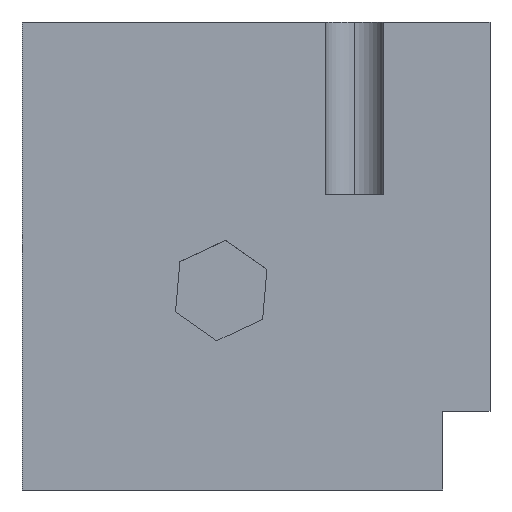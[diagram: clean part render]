
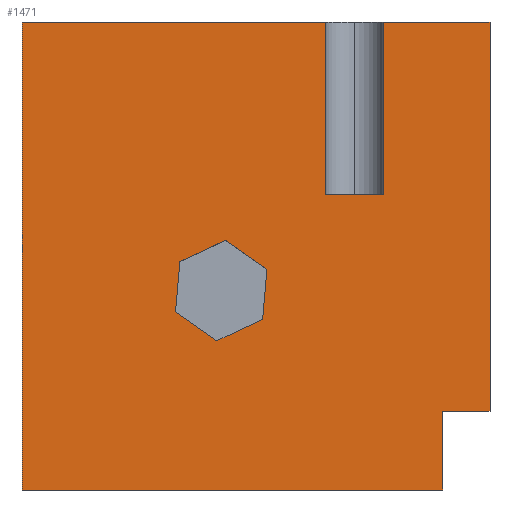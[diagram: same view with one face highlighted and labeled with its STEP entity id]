
A CAD part, left-side view. The second image highlights one B-rep face of the part: STEP entity #1471.
In plain terms, the highlighted planar face has unit normal (-1, 0, 0).
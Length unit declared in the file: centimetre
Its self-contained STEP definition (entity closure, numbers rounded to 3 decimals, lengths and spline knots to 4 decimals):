
#8 = VECTOR ( 'NONE', #459, 100. ) ;
#31 = DIRECTION ( 'NONE',  ( 0., -1., 0. ) ) ;
#38 = VECTOR ( 'NONE', #1810, 100. ) ;
#45 = EDGE_CURVE ( 'NONE', #976, #1322, #1183, .T. ) ;
#51 = CARTESIAN_POINT ( 'NONE',  ( 0., 1000., 1000. ) ) ;
#52 = CARTESIAN_POINT ( 'NONE',  ( 0., 662.564, 488.1394 ) ) ;
#83 = CARTESIAN_POINT ( 'NONE',  ( 0., 1000., 0. ) ) ;
#89 = DIRECTION ( 'NONE',  ( 0., 0., 1. ) ) ;
#91 = DIRECTION ( 'NONE',  ( 0., -1., 0. ) ) ;
#102 = AXIS2_PLACEMENT_3D ( 'NONE', #289, #1145, #1713 ) ;
#106 = ORIENTED_EDGE ( 'NONE', *, *, #1306, .T. ) ;
#163 = DIRECTION ( 'NONE',  ( 0., -0.906, 0.423 ) ) ;
#179 = LINE ( 'NONE', #1319, #1260 ) ;
#193 = LINE ( 'NONE', #793, #312 ) ;
#208 = CARTESIAN_POINT ( 'NONE',  ( 0., 100.9641, 0. ) ) ;
#222 = VECTOR ( 'NONE', #1812, 100. ) ;
#246 = CARTESIAN_POINT ( 'NONE',  ( 0., 671.8911, 380.7619 ) ) ;
#247 = CARTESIAN_POINT ( 'NONE',  ( 0., 485.9079, 364.6068 ) ) ;
#251 = EDGE_CURVE ( 'NONE', #1184, #1852, #193, .T. ) ;
#260 = EDGE_LOOP ( 'NONE', ( #682, #106, #1646, #346, #333, #1715, #1780, #1690, #414, #1543 ) ) ;
#282 = ORIENTED_EDGE ( 'NONE', *, *, #848, .F. ) ;
#286 = VECTOR ( 'NONE', #1225, 100. ) ;
#289 = CARTESIAN_POINT ( 'NONE',  ( 0., 1000., 1000. ) ) ;
#312 = VECTOR ( 'NONE', #355, 100. ) ;
#316 = VECTOR ( 'NONE', #1384, 100. ) ;
#329 = EDGE_CURVE ( 'NONE', #642, #407, #1100, .T. ) ;
#333 = ORIENTED_EDGE ( 'NONE', *, *, #670, .T. ) ;
#346 = ORIENTED_EDGE ( 'NONE', *, *, #45, .T. ) ;
#349 = CARTESIAN_POINT ( 'NONE',  ( 0., 227.5713, 631.545 ) ) ;
#353 = CARTESIAN_POINT ( 'NONE',  ( 0., 352.2187, 631.545 ) ) ;
#355 = DIRECTION ( 'NONE',  ( 0., -1., 0. ) ) ;
#363 = CARTESIAN_POINT ( 'NONE',  ( 0., 0., 1000. ) ) ;
#365 = ORIENTED_EDGE ( 'NONE', *, *, #1700, .F. ) ;
#393 = LINE ( 'NONE', #363, #1169 ) ;
#400 = CARTESIAN_POINT ( 'NONE',  ( 0., 564.9088, 533.7506 ) ) ;
#407 = VERTEX_POINT ( 'NONE', #519 ) ;
#413 = ORIENTED_EDGE ( 'NONE', *, *, #1160, .F. ) ;
#414 = ORIENTED_EDGE ( 'NONE', *, *, #1755, .F. ) ;
#439 = EDGE_CURVE ( 'NONE', #856, #1119, #526, .T. ) ;
#447 = CARTESIAN_POINT ( 'NONE',  ( 0., 1000., 1000. ) ) ;
#459 = DIRECTION ( 'NONE',  ( 0., 0., -1. ) ) ;
#472 = VERTEX_POINT ( 'NONE', #1798 ) ;
#519 = CARTESIAN_POINT ( 'NONE',  ( 0., 583.5631, 318.9956 ) ) ;
#520 = LINE ( 'NONE', #1523, #1258 ) ;
#526 = LINE ( 'NONE', #1693, #800 ) ;
#575 = ORIENTED_EDGE ( 'NONE', *, *, #831, .F. ) ;
#585 = EDGE_CURVE ( 'NONE', #1119, #1850, #726, .T. ) ;
#594 = VECTOR ( 'NONE', #31, 100. ) ;
#642 = VERTEX_POINT ( 'NONE', #1268 ) ;
#660 = CARTESIAN_POINT ( 'NONE',  ( 0., 1000., 1000. ) ) ;
#666 = LINE ( 'NONE', #349, #805 ) ;
#670 = EDGE_CURVE ( 'NONE', #1322, #856, #1625, .T. ) ;
#671 = ORIENTED_EDGE ( 'NONE', *, *, #1172, .F. ) ;
#682 = ORIENTED_EDGE ( 'NONE', *, *, #251, .F. ) ;
#697 = PLANE ( 'NONE',  #102 ) ;
#726 = LINE ( 'NONE', #1144, #802 ) ;
#727 = FACE_OUTER_BOUND ( 'NONE', #260, .T. ) ;
#793 = CARTESIAN_POINT ( 'NONE',  ( 0., 1000., 631.545 ) ) ;
#799 = DIRECTION ( 'NONE',  ( 0., 0.82, 0.573 ) ) ;
#800 = VECTOR ( 'NONE', #933, 100. ) ;
#802 = VECTOR ( 'NONE', #1726, 100. ) ;
#805 = VECTOR ( 'NONE', #89, 100. ) ;
#830 = VERTEX_POINT ( 'NONE', #52 ) ;
#831 = EDGE_CURVE ( 'NONE', #830, #642, #1665, .T. ) ;
#848 = EDGE_CURVE ( 'NONE', #1662, #1450, #931, .T. ) ;
#856 = VERTEX_POINT ( 'NONE', #208 ) ;
#866 = CARTESIAN_POINT ( 'NONE',  ( 0., 100.9641, 168.1008 ) ) ;
#877 = DIRECTION ( 'NONE',  ( 0., -0.087, 0.996 ) ) ;
#893 = EDGE_CURVE ( 'NONE', #1852, #1200, #666, .T. ) ;
#896 = VECTOR ( 'NONE', #909, 100. ) ;
#909 = DIRECTION ( 'NONE',  ( 0., 0.906, -0.423 ) ) ;
#931 = LINE ( 'NONE', #941, #1379 ) ;
#933 = DIRECTION ( 'NONE',  ( 0., 0., 1. ) ) ;
#941 = CARTESIAN_POINT ( 'NONE',  ( 0., 476.5807, 471.9843 ) ) ;
#962 = LINE ( 'NONE', #353, #316 ) ;
#976 = VERTEX_POINT ( 'NONE', #51 ) ;
#1100 = LINE ( 'NONE', #246, #222 ) ;
#1107 = CARTESIAN_POINT ( 'NONE',  ( 0., 0., 168.1008 ) ) ;
#1119 = VERTEX_POINT ( 'NONE', #866 ) ;
#1144 = CARTESIAN_POINT ( 'NONE',  ( 0., 0., 168.1008 ) ) ;
#1145 = DIRECTION ( 'NONE',  ( 1., 0., 0. ) ) ;
#1149 = LINE ( 'NONE', #1312, #1807 ) ;
#1160 = EDGE_CURVE ( 'NONE', #1375, #1662, #1149, .T. ) ;
#1165 = CARTESIAN_POINT ( 'NONE',  ( 0., 227.5713, 1000. ) ) ;
#1169 = VECTOR ( 'NONE', #1406, 100. ) ;
#1172 = EDGE_CURVE ( 'NONE', #1450, #830, #1874, .T. ) ;
#1183 = LINE ( 'NONE', #447, #8 ) ;
#1184 = VERTEX_POINT ( 'NONE', #1731 ) ;
#1200 = VERTEX_POINT ( 'NONE', #1165 ) ;
#1225 = DIRECTION ( 'NONE',  ( 0., 0.087, -0.996 ) ) ;
#1258 = VECTOR ( 'NONE', #91, 100. ) ;
#1260 = VECTOR ( 'NONE', #163, 100. ) ;
#1268 = CARTESIAN_POINT ( 'NONE',  ( 0., 671.8911, 380.7619 ) ) ;
#1276 = EDGE_CURVE ( 'NONE', #976, #472, #520, .T. ) ;
#1281 = VERTEX_POINT ( 'NONE', #1658 ) ;
#1306 = EDGE_CURVE ( 'NONE', #1184, #472, #962, .T. ) ;
#1312 = CARTESIAN_POINT ( 'NONE',  ( 0., 485.9079, 364.6068 ) ) ;
#1319 = CARTESIAN_POINT ( 'NONE',  ( 0., 583.5631, 318.9956 ) ) ;
#1322 = VERTEX_POINT ( 'NONE', #83 ) ;
#1375 = VERTEX_POINT ( 'NONE', #247 ) ;
#1379 = VECTOR ( 'NONE', #799, 100. ) ;
#1384 = DIRECTION ( 'NONE',  ( 0., 0., 1. ) ) ;
#1392 = EDGE_CURVE ( 'NONE', #1281, #1850, #393, .T. ) ;
#1406 = DIRECTION ( 'NONE',  ( 0., 0., -1. ) ) ;
#1450 = VERTEX_POINT ( 'NONE', #400 ) ;
#1471 = ADVANCED_FACE ( 'NONE', ( #1592, #727 ), #697, .F. ) ;
#1479 = ORIENTED_EDGE ( 'NONE', *, *, #329, .F. ) ;
#1511 = LINE ( 'NONE', #660, #38 ) ;
#1523 = CARTESIAN_POINT ( 'NONE',  ( 0., 1000., 1000. ) ) ;
#1543 = ORIENTED_EDGE ( 'NONE', *, *, #893, .F. ) ;
#1592 = FACE_BOUND ( 'NONE', #1765, .T. ) ;
#1625 = LINE ( 'NONE', #1640, #594 ) ;
#1638 = CARTESIAN_POINT ( 'NONE',  ( 0., 564.9088, 533.7506 ) ) ;
#1640 = CARTESIAN_POINT ( 'NONE',  ( 0., 1000., 0. ) ) ;
#1641 = CARTESIAN_POINT ( 'NONE',  ( 0., 476.5807, 471.9843 ) ) ;
#1646 = ORIENTED_EDGE ( 'NONE', *, *, #1276, .F. ) ;
#1658 = CARTESIAN_POINT ( 'NONE',  ( 0., 0., 1000. ) ) ;
#1662 = VERTEX_POINT ( 'NONE', #1641 ) ;
#1665 = LINE ( 'NONE', #1809, #286 ) ;
#1690 = ORIENTED_EDGE ( 'NONE', *, *, #1392, .F. ) ;
#1693 = CARTESIAN_POINT ( 'NONE',  ( 0., 100.9641, 0. ) ) ;
#1697 = CARTESIAN_POINT ( 'NONE',  ( 0., 227.5713, 631.545 ) ) ;
#1700 = EDGE_CURVE ( 'NONE', #407, #1375, #179, .T. ) ;
#1713 = DIRECTION ( 'NONE',  ( 0., 0., -1. ) ) ;
#1715 = ORIENTED_EDGE ( 'NONE', *, *, #439, .T. ) ;
#1726 = DIRECTION ( 'NONE',  ( 0., -1., 0. ) ) ;
#1731 = CARTESIAN_POINT ( 'NONE',  ( 0., 352.2187, 631.545 ) ) ;
#1755 = EDGE_CURVE ( 'NONE', #1200, #1281, #1511, .T. ) ;
#1765 = EDGE_LOOP ( 'NONE', ( #575, #671, #282, #413, #365, #1479 ) ) ;
#1780 = ORIENTED_EDGE ( 'NONE', *, *, #585, .T. ) ;
#1798 = CARTESIAN_POINT ( 'NONE',  ( 0., 352.2187, 1000. ) ) ;
#1807 = VECTOR ( 'NONE', #877, 100. ) ;
#1809 = CARTESIAN_POINT ( 'NONE',  ( 0., 662.564, 488.1394 ) ) ;
#1810 = DIRECTION ( 'NONE',  ( 0., -1., 0. ) ) ;
#1812 = DIRECTION ( 'NONE',  ( 0., -0.82, -0.573 ) ) ;
#1850 = VERTEX_POINT ( 'NONE', #1107 ) ;
#1852 = VERTEX_POINT ( 'NONE', #1697 ) ;
#1874 = LINE ( 'NONE', #1638, #896 ) ;
